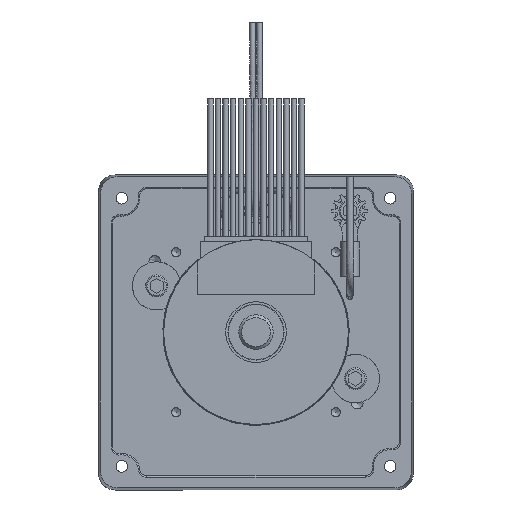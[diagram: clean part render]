
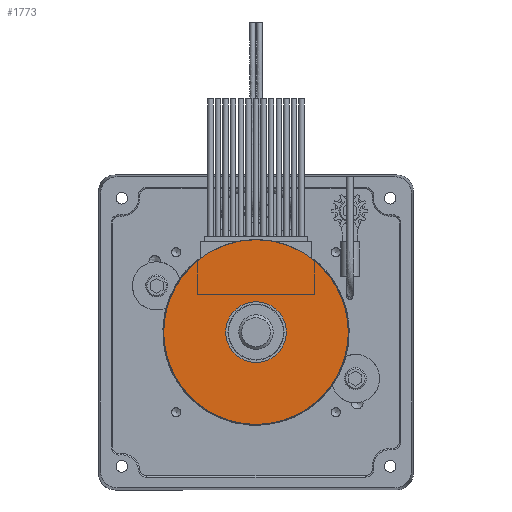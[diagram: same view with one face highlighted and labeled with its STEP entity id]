
A CAD part, top view. The second image highlights one B-rep face of the part: STEP entity #1773.
In plain terms, the highlighted planar face has unit normal (0, 0, 1).
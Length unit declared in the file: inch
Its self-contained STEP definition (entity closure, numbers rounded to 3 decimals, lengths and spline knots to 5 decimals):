
#123=CARTESIAN_POINT('',(0.22,0.,3.0545));
#124=VERTEX_POINT('',#123);
#125=CARTESIAN_POINT('',(0.0,0.0,3.0545));
#126=DIRECTION('',(0.0,0.0,-1.0));
#127=DIRECTION('',(-1.0,0.0,0.0));
#128=AXIS2_PLACEMENT_3D('',#125,#126,#127);
#129=CIRCLE('',#128,0.22);
#130=EDGE_CURVE('',#124,#124,#129,.T.);
#1738=CARTESIAN_POINT('',(0.67,0.,3.0545));
#1739=VERTEX_POINT('',#1738);
#1740=CARTESIAN_POINT('',(0.0,0.0,3.0545));
#1741=DIRECTION('',(0.0,0.0,-1.0));
#1742=DIRECTION('',(-1.0,0.0,0.0));
#1743=AXIS2_PLACEMENT_3D('',#1740,#1741,#1742);
#1744=CIRCLE('',#1743,0.67);
#1745=EDGE_CURVE('',#1739,#1739,#1744,.T.);
#1762=CARTESIAN_POINT('',(0.0,0.0,3.0545));
#1763=DIRECTION('',(0.0,0.0,-1.0));
#1764=DIRECTION('',(-1.0,0.0,0.0));
#1765=AXIS2_PLACEMENT_3D('',#1762,#1763,#1764);
#1766=PLANE('',#1765);
#1767=ORIENTED_EDGE('',*,*,#1745,.F.);
#1768=EDGE_LOOP('',(#1767));
#1769=FACE_OUTER_BOUND('',#1768,.T.);
#1770=ORIENTED_EDGE('',*,*,#130,.T.);
#1771=EDGE_LOOP('',(#1770));
#1772=FACE_BOUND('',#1771,.T.);
#1773=ADVANCED_FACE('',(#1769,#1772),#1766,.F.);
